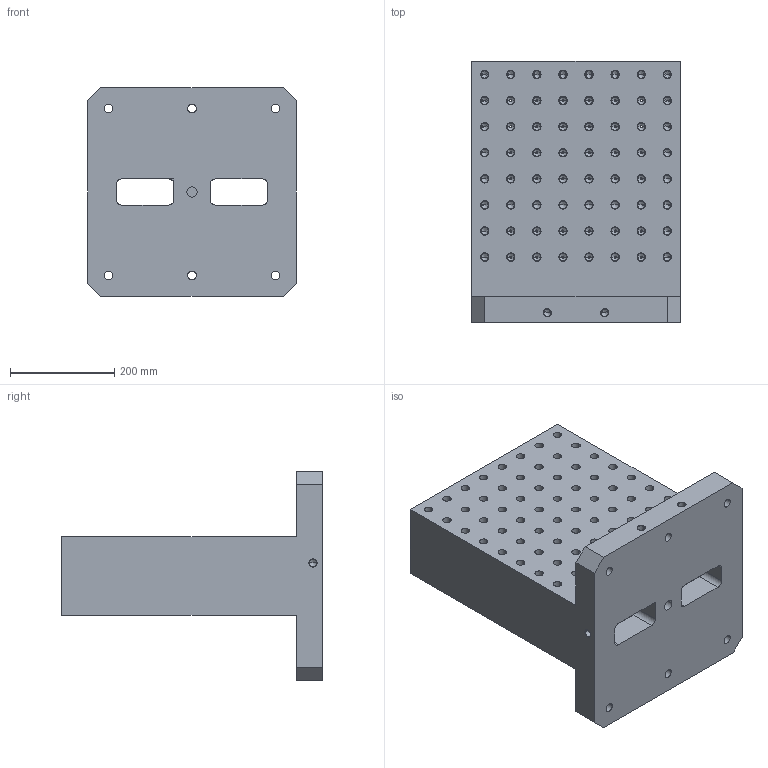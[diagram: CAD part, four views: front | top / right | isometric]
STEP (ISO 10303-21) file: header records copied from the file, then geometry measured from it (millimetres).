
FILE_DESCRIPTION((''),'2;1');
FILE_NAME('FG_WH_TOMB_RCG16NP002','2026-05-20T16:44:39',('Admin'),(''),'CREO PARAMETRIC BY PTC INC, 2025010','CREO PARAMETRIC BY PTC INC, 2025010','');
FILE_SCHEMA(('CONFIG_CONTROL_DESIGN'));
Length unit declared in the file: millimetre
Products named in the file (1): FG_WH_TOMB_RCG16NP002
Bounding box: 400 x 500 x 400 mm (x, y, z)
Volume: 25652909.7 mm3; surface area: 1752663.9 mm2
Topology: 1 solids, 137 shells, 1451 faces, 3519 edges, 2282 vertices
Faces by surface type: cylinder 853, plane 326, cone 272
Entity records: 42686 total; most frequent: DIRECTION 8417, CARTESIAN_POINT 7125, ORIENTED_EDGE 6238, AXIS2_PLACEMENT_3D 3574, EDGE_CURVE 3391, VERTEX_POINT 2282, CIRCLE 2122, EDGE_LOOP 1955
